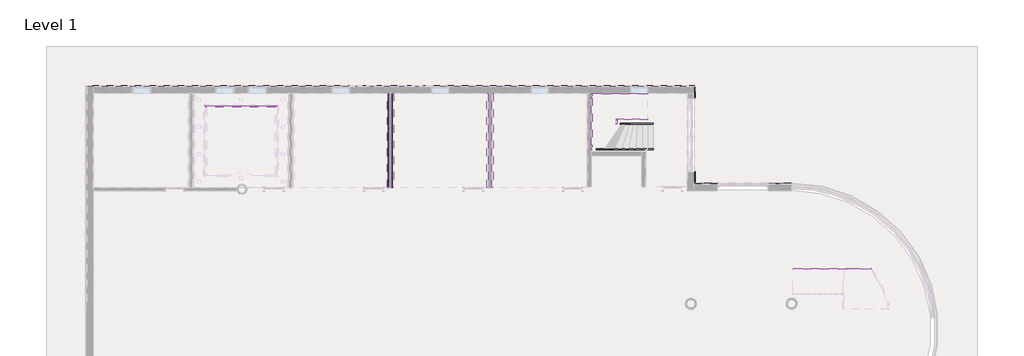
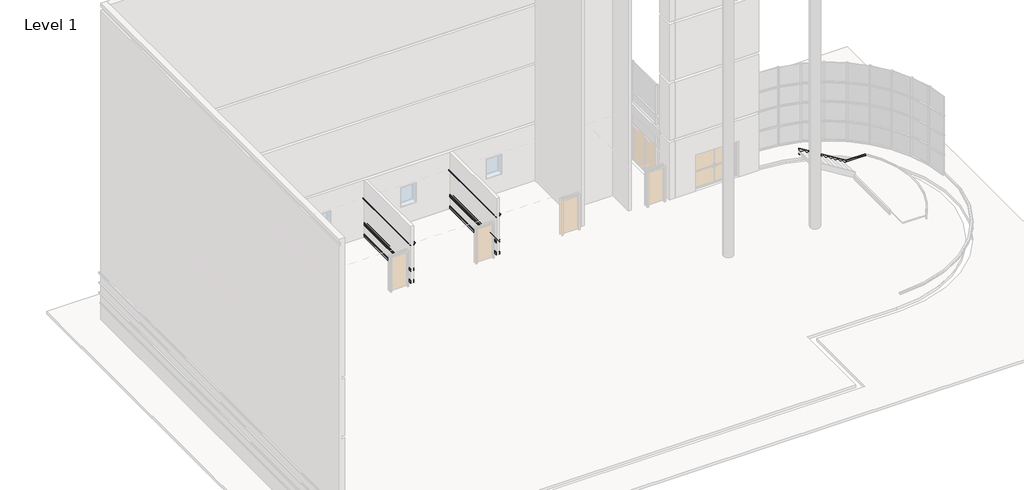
# One storey, part 20 of 20: 17 proxies, 10 members.
"""IFC4 building model written with IfcOpenShell, lengths in millimetres."""

from ifc_helpers import new_model, si_unit, point, frame, frame_2d, origin, place, context, project, spatial, polyline, circle_curve, ellipse_curve, trimmed, segment, composite_curve, outline, extrude, faceted_brep, element, save
from ifc_brep_helpers import plane_surface, cylinder_surface, revolved_surface, advanced_brep

model = new_model("IFC4")

# Units and contexts
model_context = context("Model", 3, world=origin())
ifc_project = project(units=[si_unit("LENGTHUNIT", "METRE", prefix="MILLI")], contexts=[model_context])

# Site, building, storey
site = spatial("IfcSite", under=ifc_project)
building = spatial("IfcBuilding", under=site)
storey = spatial("IfcBuildingStorey", under=building, Name="Level 1", Elevation=0.0)

# Proxies
placement = place(None, origin())
element("IfcBuildingElementProxy", 1, Name="Wall Sweeps", at=placement, inside=storey, context=model_context, shape_type="Brep", body=[
    faceted_brep([(-17326.7910279, 9594.1148319, 1085.85), (-17418.8660279, 9686.1898319, 1085.85), (-17453.7910279, 9721.1148319, 1041.4), (-17453.7910279, 9721.1148319, 1016.0), (-17326.7910279, 9594.1148319, 1016.0), (12969.0589721, 9594.1148319, 1085.85), (12969.0589721, 9594.1148319, 1016.0), (13096.0589721, 9721.1148319, 1016.0), (13096.0589721, 9721.1148319, 1041.4), (13061.1339721, 9686.1898319, 1085.85), (-17066.4410279, 9594.1148319, 1085.85), (-17066.4410279, 9594.1148319, 1016.0)], [[[0, 1, 2, 3, 4]], [[5, 6, 7, 8, 9]], [[1, 0, 10, 5, 9]], [[2, 1, 9, 8]], [[3, 2, 8, 7]], [[4, 3, 7, 6, 11]], [[0, 4, 11, 6, 5, 10]]]),
])
element("IfcBuildingElementProxy", 2, Name="Wall Sweeps", at=placement, inside=storey, context=model_context, shape_type="Brep", body=[
    faceted_brep([(12969.0589721, 5418.9898319, 1085.85), (13061.1339721, 5418.9898319, 1085.85), (13096.0589721, 5418.9898319, 1041.4), (13096.0589721, 5418.9898319, 1016.0), (13061.1339721, 5418.9898319, 1016.0), (12969.0589721, 5418.9898319, 1016.0), (12969.0589721, 4717.3148319, 1085.85), (12969.0589721, 4717.3148319, 1016.0), (13096.0589721, 4844.3148319, 1016.0), (13096.0589721, 4844.3148319, 1041.4), (13061.1339721, 4809.3898319, 1085.85)], [[[0, 1, 2, 3, 4, 5]], [[6, 7, 8, 9, 10]], [[1, 0, 6, 10]], [[2, 1, 10, 9]], [[3, 2, 9, 8]], [[5, 4, 3, 8, 7]], [[0, 5, 7, 6]]]),
    faceted_brep([(12969.0589721, 9594.1148319, 1085.85), (13061.1339721, 9686.1898319, 1085.85), (13096.0589721, 9721.1148319, 1041.4), (13096.0589721, 9721.1148319, 1016.0), (12969.0589721, 9594.1148319, 1016.0), (12969.0589721, 9076.5898319, 1085.85), (12969.0589721, 9076.5898319, 1016.0), (13061.1339721, 9076.5898319, 1016.0), (13096.0589721, 9076.5898319, 1016.0), (13096.0589721, 9076.5898319, 1041.4), (13061.1339721, 9076.5898319, 1085.85), (12969.0589721, 9333.7648319, 1085.85), (12969.0589721, 9333.7648319, 1016.0)], [[[0, 1, 2, 3, 4]], [[5, 6, 7, 8, 9, 10]], [[1, 0, 11, 5, 10]], [[2, 1, 10, 9]], [[3, 2, 9, 8]], [[4, 3, 8, 7, 6, 12]], [[0, 4, 12, 6, 5, 11]]]),
])
element("IfcBuildingElementProxy", 3, Name="Wall Sweeps", at=placement, inside=storey, context=model_context, shape_type="Brep", body=[
    faceted_brep([(16760.0089721, 4717.3148319, 1085.85), (16760.0089721, 4809.3898319, 1085.85), (16760.0089721, 4844.3148319, 1041.4), (16760.0089721, 4844.3148319, 1016.0), (16760.0089721, 4809.3898319, 1016.0), (16760.0089721, 4717.3148319, 1016.0), (17937.9339721, 4717.3148319, 1085.85), (17937.9339721, 4717.3148319, 1016.0), (17937.9339721, 4809.3898319, 1016.0), (17937.9339721, 4844.3148319, 1016.0), (17937.9339721, 4844.3148319, 1041.4), (17937.9339721, 4809.3898319, 1085.85)], [[[0, 1, 2, 3, 4, 5]], [[6, 7, 8, 9, 10, 11]], [[1, 0, 6, 11]], [[2, 1, 11, 10]], [[3, 2, 10, 9]], [[5, 4, 3, 9, 8, 7]], [[0, 5, 7, 6]]]),
    faceted_brep([(12969.0589721, 4717.3148319, 1085.85), (13061.1339721, 4809.3898319, 1085.85), (13096.0589721, 4844.3148319, 1041.4), (13096.0589721, 4844.3148319, 1016.0), (12969.0589721, 4717.3148319, 1016.0), (14220.0089721, 4717.3148319, 1085.85), (14220.0089721, 4717.3148319, 1016.0), (14220.0089721, 4809.3898319, 1016.0), (14220.0089721, 4844.3148319, 1016.0), (14220.0089721, 4844.3148319, 1041.4), (14220.0089721, 4809.3898319, 1085.85), (13061.1339721, 4717.3148319, 1085.85), (13061.1339721, 4717.3148319, 1016.0)], [[[0, 1, 2, 3, 4]], [[5, 6, 7, 8, 9, 10]], [[1, 0, 11, 5, 10]], [[2, 1, 10, 9]], [[3, 2, 9, 8]], [[4, 3, 8, 7, 6, 12]], [[0, 4, 12, 6, 5, 11]]]),
])
element("IfcBuildingElementProxy", 4, Name="Wall Sweeps", at=placement, inside=storey, context=model_context, shape_type="AdvancedBrep", body=[
    advanced_brep(
    [(-11474.2076946, 8722.5773319, 2457.45), (-11475.7951946, 8724.1648319, 2455.8625), (-11475.7951946, 8724.1648319, 2438.4), (-11455.1576946, 8703.5273319, 2438.4), (-11455.1576946, 8703.5273319, 2457.45), (-11457.5389446, 8705.9085819, 2457.45), (-11458.6301983, 8706.9998357, 2463.7601121), (-11462.5590603, 8710.9286977, 2472.53125), (-11464.6826946, 8713.0523319, 2472.53125), (-11464.6826946, 8713.0523319, 2543.96875), (-11462.5590603, 8710.9286977, 2543.96875), (-11458.6301983, 8706.9998357, 2552.7398879), (-11457.5389446, 8705.9085819, 2559.05), (-11455.1576946, 8703.5273319, 2559.05), (-11455.1576946, 8703.5273319, 2578.1), (-11475.7951946, 8724.1648319, 2578.1), (-11475.7951946, 8724.1648319, 2560.6375), (-11474.2076946, 8722.5773319, 2559.05), (-7858.4118612, 8724.1648319, 2455.8625), (-7859.9993612, 8722.5773319, 2457.45), (-7859.9993612, 8722.5773319, 2559.05), (-7858.4118612, 8724.1648319, 2560.6375), (-7858.4118612, 8724.1648319, 2578.1), (-7879.0493612, 8703.5273319, 2578.1), (-7879.0493612, 8703.5273319, 2559.05), (-7876.6681112, 8705.9085819, 2559.05), (-7875.5768575, 8706.9998357, 2552.7398879), (-7871.6479954, 8710.9286977, 2543.96875), (-7869.5243612, 8713.0523319, 2543.96875), (-7869.5243612, 8713.0523319, 2472.53125), (-7871.6479954, 8710.9286977, 2472.53125), (-7875.5768575, 8706.9998357, 2463.7601121), (-7876.6681112, 8705.9085819, 2457.45), (-7879.0493612, 8703.5273319, 2457.45), (-7879.0493612, 8703.5273319, 2438.4), (-7858.4118612, 8724.1648319, 2438.4)],
    [
        (0, 1),
        (1, 2),
        (2, 3),
        (3, 4),
        (4, 5),
        (5, 6, ellipse_curve(frame((-11462.5590603, 8710.9286977, 2459.83125), z_axis=(-0.7071067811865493, -0.7071067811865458, 0.0), x_axis=(-0.7071067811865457, 0.7071067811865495, 0.0)), 7.8577241, 5.55625)),
        (6, 7, ellipse_curve(frame((-11450.8433753, 8699.2130126, 2472.5135672), z_axis=(0.7071067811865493, 0.7071067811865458, 0.0), x_axis=(0.7071067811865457, -0.7071067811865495, 0.0)), 16.5684996, 11.7156984)),
        (7, 8),
        (8, 9),
        (9, 10),
        (10, 11, ellipse_curve(frame((-11450.8433753, 8699.2130126, 2543.9864328), z_axis=(0.7071067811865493, 0.7071067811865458, 0.0), x_axis=(0.7071067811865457, -0.7071067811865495, 0.0)), 16.5684996, 11.7156984)),
        (11, 12, ellipse_curve(frame((-11462.5590603, 8710.9286977, 2556.66875), z_axis=(-0.7071067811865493, -0.7071067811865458, 0.0), x_axis=(-0.7071067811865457, 0.7071067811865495, 0.0)), 7.8577241, 5.55625)),
        (12, 13),
        (13, 14),
        (14, 15),
        (15, 16),
        (16, 17),
        (17, 0),
        (18, 19),
        (19, 20),
        (20, 21),
        (21, 22),
        (22, 23),
        (23, 24),
        (24, 25),
        (25, 26, ellipse_curve(frame((-7871.6479954, 8710.9286977, 2556.66875), z_axis=(0.7071067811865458, -0.7071067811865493, 0.0), x_axis=(-0.7071067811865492, -0.7071067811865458, 0.0)), 7.8577241, 5.55625)),
        (26, 27, ellipse_curve(frame((-7883.3636805, 8699.2130126, 2543.9864328), z_axis=(-0.7071067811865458, 0.7071067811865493, 0.0), x_axis=(0.7071067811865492, 0.7071067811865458, 0.0)), 16.5684996, 11.7156984)),
        (27, 28),
        (28, 29),
        (29, 30),
        (30, 31, ellipse_curve(frame((-7883.3636805, 8699.2130126, 2472.5135672), z_axis=(-0.7071067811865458, 0.7071067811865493, 0.0), x_axis=(0.7071067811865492, 0.7071067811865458, 0.0)), 16.5684996, 11.7156984)),
        (31, 32, ellipse_curve(frame((-7871.6479954, 8710.9286977, 2459.83125), z_axis=(0.7071067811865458, -0.7071067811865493, 0.0), x_axis=(-0.7071067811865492, -0.7071067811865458, 0.0)), 7.8577241, 5.55625)),
        (32, 33),
        (33, 34),
        (34, 35),
        (35, 18),
        (0, 19),
        (18, 1),
        (35, 2),
        (34, 3),
        (33, 4),
        (32, 5),
        (31, 6),
        (30, 7),
        (29, 8),
        (28, 9),
        (27, 10),
        (26, 11),
        (25, 12),
        (24, 13),
        (23, 14),
        (22, 15),
        (21, 16),
        (20, 17),
    ],
    [
        plane_surface(frame((-11475.7951946, 8724.1648319, 2743.2), z_axis=(-0.7071067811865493, -0.7071067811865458, 0.0), x_axis=(0.7071067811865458, -0.7071067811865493, 0.0))),
        plane_surface(frame((-7858.4118612, 8724.1648319, 2743.2), z_axis=(0.7071067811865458, -0.7071067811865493, 0.0), x_axis=(-0.7071067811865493, -0.7071067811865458, 0.0))),
        plane_surface(frame((-11474.2076946, 8722.5773319, 2457.45), z_axis=(0.0, 0.7071067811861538, 0.7071067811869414), x_axis=(1.0, 0.0, 0.0))),
        plane_surface(frame((-11475.7951946, 8724.1648319, 2455.8625), z_axis=(0.0, 1.0, 0.0), x_axis=(1.0, 0.0, 0.0))),
        plane_surface(frame((-11475.7951946, 8724.1648319, 2438.4), z_axis=(0.0, 0.0, -1.0), x_axis=(1.0, 0.0, 0.0))),
        plane_surface(frame((-11455.1576946, 8703.5273319, 2438.4), z_axis=(0.0, -1.0, 0.0), x_axis=(1.0, 0.0, 0.0))),
        plane_surface(frame((-11455.1576946, 8703.5273319, 2457.45), z_axis=(0.0, 0.0, 1.0), x_axis=(1.0, 0.0, 0.0))),
        cylinder_surface(frame((-11475.7951946, 8710.9286977, 2459.83125), z_axis=(-1.0, 0.0, 0.0), x_axis=(0.0, -1.0, 0.0)), 5.55625),
        revolved_surface(polyline([(-7871.647982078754, 8687.4973142, 2472.5135672), (-11462.559073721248, 8687.4973142, 2472.5135672)]), (-11475.7951946, 8699.2130126, 2472.5135672), (1.0, 0.0, 0.0)),
        plane_surface(frame((-11462.5590603, 8710.9286977, 2472.53125), z_axis=(0.0, 0.0, 1.0), x_axis=(1.0, 0.0, 0.0))),
        plane_surface(frame((-11464.6826946, 8713.0523319, 2472.53125), z_axis=(0.0, -1.0, 0.0), x_axis=(1.0, 0.0, 0.0))),
        plane_surface(frame((-11464.6826946, 8713.0523319, 2543.96875), z_axis=(0.0, 0.0, -1.0), x_axis=(1.0, 0.0, 0.0))),
        revolved_surface(polyline([(-7871.647982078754, 8687.4973142, 2543.9864328), (-11462.559073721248, 8687.4973142, 2543.9864328)]), (-11475.7951946, 8699.2130126, 2543.9864328), (1.0, 0.0, 0.0)),
        cylinder_surface(frame((-11475.7951946, 8710.9286977, 2556.66875), z_axis=(-1.0, 0.0, 0.0), x_axis=(0.0, -1.0, 0.0)), 5.55625),
        plane_surface(frame((-11457.5389446, 8705.9085819, 2559.05), z_axis=(0.0, 0.0, -1.0), x_axis=(1.0, 0.0, 0.0))),
        plane_surface(frame((-11455.1576946, 8703.5273319, 2559.05), z_axis=(0.0, -1.0, 0.0), x_axis=(1.0, 0.0, 0.0))),
        plane_surface(frame((-11455.1576946, 8703.5273319, 2578.1), z_axis=(0.0, 0.0, 1.0), x_axis=(1.0, 0.0, 0.0))),
        plane_surface(frame((-11475.7951946, 8724.1648319, 2578.1), z_axis=(0.0, 1.0, 0.0), x_axis=(1.0, 0.0, 0.0))),
        plane_surface(frame((-11475.7951946, 8724.1648319, 2560.6375), z_axis=(0.0, 0.7071067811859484, -0.7071067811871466), x_axis=(1.0, 0.0, 0.0))),
        plane_surface(frame((-11474.2076946, 8722.5773319, 2559.05), z_axis=(0.0, 1.0, 0.0), x_axis=(1.0, 0.0, 0.0))),
    ],
    [
        (0, [[1, 2, 3, 4, 5, 6, 7, 8, 9, 10, 11, 12, 13, 14, 15, 16, 17, 18]]),
        (1, [[19, 20, 21, 22, 23, 24, 25, 26, 27, 28, 29, 30, 31, 32, 33, 34, 35, 36]]),
        (2, [[-1, 37, -19, 38]]),
        (3, [[-2, -38, -36, 39]]),
        (4, [[-3, -39, -35, 40]]),
        (5, [[-4, -40, -34, 41]]),
        (6, [[-5, -41, -33, 42]]),
        (7, [[-6, -42, -32, 43]]),
        (8, [[-7, -43, -31, 44]]),
        (9, [[-8, -44, -30, 45]]),
        (10, [[-9, -45, -29, 46]]),
        (11, [[-10, -46, -28, 47]]),
        (12, [[-11, -47, -27, 48]]),
        (13, [[-12, -48, -26, 49]]),
        (14, [[-13, -49, -25, 50]]),
        (15, [[-14, -50, -24, 51]]),
        (16, [[-15, -51, -23, 52]]),
        (17, [[-16, -52, -22, 53]]),
        (18, [[-17, -53, -21, 54]]),
        (19, [[-18, -54, -20, -37]]),
    ],
),
])
element("IfcBuildingElementProxy", 5, Name="Wall Sweeps", at=placement, inside=storey, context=model_context, shape_type="AdvancedBrep", body=[
    advanced_brep(
    [(-11407.602032, 8655.9716694, 2895.599973), (-11475.7951946, 8724.1648319, 2809.0919306), (-11475.7951946, 8724.1648319, 2784.475), (-11468.6123274, 8716.9819647, 2784.475), (-11464.6362015, 8713.0058388, 2790.9297498), (-11464.6362015, 8713.0058388, 2795.2157037), (-11457.5101577, 8705.879795, 2805.6207604), (-11453.9213168, 8702.2909541, 2805.6207604), (-11453.9213168, 8702.2909541, 2810.6554653), (-11450.6939418, 8699.0635792, 2810.6554653), (-11425.19768, 8673.5673174, 2849.3194168), (-11417.9554507, 8666.3250881, 2854.0442936), (-11404.4262951, 8652.7959325, 2873.3698146), (-11404.4262951, 8652.7959325, 2878.8202934), (-11401.6577313, 8650.0273687, 2878.8202934), (-11392.8600384, 8641.2296758, 2884.9986257), (-11389.410554, 8637.7801913, 2888.4481102), (-11386.8951946, 8635.2648319, 2888.4481102), (-11386.8951946, 8635.2648319, 2895.599973), (-7926.6050238, 8655.9716694, 2895.599973), (-7947.3118612, 8635.2648319, 2895.599973), (-7947.3118612, 8635.2648319, 2888.4481102), (-7944.7965018, 8637.7801913, 2888.4481102), (-7941.3470174, 8641.2296758, 2884.9986257), (-7932.5493245, 8650.0273687, 2878.8202934), (-7929.7807607, 8652.7959325, 2878.8202934), (-7929.7807607, 8652.7959325, 2873.3698146), (-7916.2516051, 8666.3250881, 2854.0442936), (-7909.0093758, 8673.5673174, 2849.3194168), (-7883.5131139, 8699.0635792, 2810.6554653), (-7880.285739, 8702.2909541, 2810.6554653), (-7880.285739, 8702.2909541, 2805.6207604), (-7876.6968981, 8705.879795, 2805.6207604), (-7869.5708543, 8713.0058388, 2795.2157037), (-7869.5708543, 8713.0058388, 2790.9297498), (-7865.5947284, 8716.9819647, 2784.475), (-7858.4118612, 8724.1648319, 2784.475), (-7858.4118612, 8724.1648319, 2809.0919306)],
    [
        (0, 1),
        (1, 2),
        (2, 3),
        (3, 4, ellipse_curve(frame((-11461.358908, 8709.7285454, 2784.4589154), z_axis=(0.7071067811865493, 0.7071067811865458, 0.0), x_axis=(0.7071067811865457, -0.7071067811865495, 0.0)), 10.2579093, 7.2534372)),
        (4, 5),
        (5, 6, ellipse_curve(frame((-11467.9977241, 8716.3673615, 2805.1606001), z_axis=(-0.7071067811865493, -0.7071067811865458, 0.0), x_axis=(-0.7071067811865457, 0.7071067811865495, 0.0)), 14.8459286, 10.4976568)),
        (6, 7),
        (7, 8),
        (8, 9),
        (9, 10, ellipse_curve(frame((-11403.7455399, 8652.1151772, 2807.4346746), z_axis=(0.7071067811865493, 0.7071067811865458, 0.0), x_axis=(0.7071067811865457, -0.7071067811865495, 0.0)), 66.5511223, 47.0587499)),
        (10, 11),
        (11, 12, ellipse_curve(frame((-11426.263642, 8674.6332794, 2874.2589994), z_axis=(-0.7071067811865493, -0.7071067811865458, 0.0), x_axis=(-0.7071067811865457, 0.7071067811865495, 0.0)), 30.9082633, 21.8554426)),
        (12, 13),
        (13, 14),
        (14, 15, ellipse_curve(frame((-11400.7154046, 8649.085042, 2886.8314026), z_axis=(-0.7071067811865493, -0.7071067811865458, 0.0), x_axis=(-0.7071067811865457, 0.7071067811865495, 0.0)), 11.4075282, 8.0663405)),
        (15, 16, ellipse_curve(frame((-11385.5760535, 8633.9456909, 2881.1641253), z_axis=(0.7071067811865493, 0.7071067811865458, 0.0), x_axis=(0.7071067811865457, -0.7071067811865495, 0.0)), 11.6412911, 8.2316359)),
        (16, 17),
        (17, 18),
        (18, 0),
        (19, 20),
        (20, 21),
        (21, 22),
        (22, 23, ellipse_curve(frame((-7948.6310023, 8633.9456909, 2881.1641253), z_axis=(-0.7071067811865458, 0.7071067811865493, 0.0), x_axis=(0.7071067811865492, 0.7071067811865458, 0.0)), 11.6412911, 8.2316359)),
        (23, 24, ellipse_curve(frame((-7933.4916512, 8649.085042, 2886.8314026), z_axis=(0.7071067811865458, -0.7071067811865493, 0.0), x_axis=(-0.7071067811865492, -0.7071067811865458, 0.0)), 11.4075282, 8.0663405)),
        (24, 25),
        (25, 26),
        (26, 27, ellipse_curve(frame((-7907.9434138, 8674.6332794, 2874.2589994), z_axis=(0.7071067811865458, -0.7071067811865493, 0.0), x_axis=(-0.7071067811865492, -0.7071067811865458, 0.0)), 30.9082633, 21.8554426)),
        (27, 28),
        (28, 29, ellipse_curve(frame((-7930.4615159, 8652.1151772, 2807.4346746), z_axis=(-0.7071067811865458, 0.7071067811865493, 0.0), x_axis=(0.7071067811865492, 0.7071067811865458, 0.0)), 66.5511223, 47.0587499)),
        (29, 30),
        (30, 31),
        (31, 32),
        (32, 33, ellipse_curve(frame((-7866.2093317, 8716.3673615, 2805.1606001), z_axis=(0.7071067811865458, -0.7071067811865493, 0.0), x_axis=(-0.7071067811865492, -0.7071067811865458, 0.0)), 14.8459286, 10.4976568)),
        (33, 34),
        (34, 35, ellipse_curve(frame((-7872.8481478, 8709.7285454, 2784.4589154), z_axis=(-0.7071067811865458, 0.7071067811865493, 0.0), x_axis=(0.7071067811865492, 0.7071067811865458, 0.0)), 10.2579093, 7.2534372)),
        (35, 36),
        (36, 37),
        (37, 19),
        (0, 19),
        (37, 1),
        (36, 2),
        (35, 3),
        (34, 4),
        (33, 5),
        (32, 6),
        (31, 7),
        (30, 8),
        (29, 9),
        (28, 10),
        (27, 11),
        (26, 12),
        (25, 13),
        (24, 14),
        (23, 15),
        (22, 16),
        (21, 17),
        (20, 18),
    ],
    [
        plane_surface(frame((-11475.7951946, 8724.1648319, 3089.275), z_axis=(-0.7071067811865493, -0.7071067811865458, 0.0), x_axis=(0.7071067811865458, -0.7071067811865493, 0.0))),
        plane_surface(frame((-7858.4118612, 8724.1648319, 3089.275), z_axis=(0.7071067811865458, -0.7071067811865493, 0.0), x_axis=(-0.7071067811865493, -0.7071067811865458, 0.0))),
        plane_surface(frame((-11407.602032, 8655.9716694, 2895.599973), z_axis=(0.0, 0.7853358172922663, 0.6190699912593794), x_axis=(1.0, 0.0, 0.0))),
        plane_surface(frame((-11475.7951946, 8724.1648319, 2809.0919306), z_axis=(0.0, 1.0, 0.0), x_axis=(1.0, 0.0, 0.0))),
        plane_surface(frame((-11475.7951946, 8724.1648319, 2784.475), z_axis=(0.0, 0.0, -1.0), x_axis=(1.0, 0.0, 0.0))),
        revolved_surface(polyline([(-7865.594710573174, 8702.4751082, 2784.4589154), (-11468.612345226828, 8702.4751082, 2784.4589154)]), (-11475.7951946, 8709.7285454, 2784.4589154), (1.0, 0.0, 0.0)),
        plane_surface(frame((-11464.6362015, 8713.0058388, 2790.9297498), z_axis=(0.0, -1.0, 0.0), x_axis=(1.0, 0.0, 0.0))),
        cylinder_surface(frame((-11475.7951946, 8716.3673615, 2805.1606001), z_axis=(-1.0, 0.0, 0.0), x_axis=(0.0, -1.0, 0.0)), 10.4976568),
        plane_surface(frame((-11457.5101577, 8705.879795, 2805.6207604), z_axis=(0.0, 0.0, -1.0), x_axis=(1.0, 0.0, 0.0))),
        plane_surface(frame((-11453.9213168, 8702.2909541, 2805.6207604), z_axis=(0.0, -1.0, 0.0), x_axis=(1.0, 0.0, 0.0))),
        plane_surface(frame((-11453.9213168, 8702.2909541, 2810.6554653), z_axis=(0.0, 0.0, -1.0), x_axis=(1.0, 0.0, 0.0))),
        revolved_surface(polyline([(-7883.4027660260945, 8605.0564273, 2807.4346746), (-11450.804289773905, 8605.0564273, 2807.4346746)]), (-11475.7951946, 8652.1151772, 2807.4346746), (1.0, 0.0, 0.0)),
        plane_surface(frame((-11425.19768, 8673.5673174, 2849.3194168), z_axis=(0.0, -0.5464043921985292, -0.8375214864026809), x_axis=(1.0, 0.0, 0.0))),
        cylinder_surface(frame((-11475.7951946, 8674.6332794, 2874.2589994), z_axis=(-1.0, 0.0, 0.0), x_axis=(0.0, -1.0, 0.0)), 21.8554426),
        plane_surface(frame((-11404.4262951, 8652.7959325, 2873.3698146), z_axis=(0.0, -1.0, 0.0), x_axis=(1.0, 0.0, 0.0))),
        plane_surface(frame((-11404.4262951, 8652.7959325, 2878.8202934), z_axis=(0.0, 0.0, -1.0), x_axis=(1.0, 0.0, 0.0))),
        cylinder_surface(frame((-11475.7951946, 8649.085042, 2886.8314026), z_axis=(-1.0, 0.0, 0.0), x_axis=(0.0, -1.0, 0.0)), 8.0663405),
        revolved_surface(polyline([(-7940.399366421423, 8625.714055, 2881.1641253), (-11393.807689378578, 8625.714055, 2881.1641253)]), (-11475.7951946, 8633.9456909, 2881.1641253), (1.0, 0.0, 0.0)),
        plane_surface(frame((-11389.410554, 8637.7801913, 2888.4481102), z_axis=(0.0, 0.0, -1.0), x_axis=(1.0, 0.0, 0.0))),
        plane_surface(frame((-11386.8951946, 8635.2648319, 2888.4481102), z_axis=(0.0, -1.0, 0.0), x_axis=(1.0, 0.0, 0.0))),
        plane_surface(frame((-11386.8951946, 8635.2648319, 2895.599973), z_axis=(0.0, 0.0, 1.0), x_axis=(1.0, 0.0, 0.0))),
    ],
    [
        (0, [[1, 2, 3, 4, 5, 6, 7, 8, 9, 10, 11, 12, 13, 14, 15, 16, 17, 18, 19]]),
        (1, [[20, 21, 22, 23, 24, 25, 26, 27, 28, 29, 30, 31, 32, 33, 34, 35, 36, 37, 38]]),
        (2, [[-1, 39, -38, 40]]),
        (3, [[-2, -40, -37, 41]]),
        (4, [[-3, -41, -36, 42]]),
        (5, [[-4, -42, -35, 43]]),
        (6, [[-5, -43, -34, 44]]),
        (7, [[-6, -44, -33, 45]]),
        (8, [[-7, -45, -32, 46]]),
        (9, [[-8, -46, -31, 47]]),
        (10, [[-9, -47, -30, 48]]),
        (11, [[-10, -48, -29, 49]]),
        (12, [[-11, -49, -28, 50]]),
        (13, [[-12, -50, -27, 51]]),
        (14, [[-13, -51, -26, 52]]),
        (15, [[-14, -52, -25, 53]]),
        (16, [[-15, -53, -24, 54]]),
        (17, [[-16, -54, -23, 55]]),
        (18, [[-17, -55, -22, 56]]),
        (19, [[-18, -56, -21, 57]]),
        (20, [[-19, -57, -20, -39]]),
    ],
),
])
element("IfcBuildingElementProxy", 6, Name="Wall Sweeps", at=placement, inside=storey, context=model_context, shape_type="SweptSolid", body=[
    extrude(outline(composite_curve([segment(polyline([(146.05, -2272.528528), (0.0, -2272.528528), (0.0, -2256.6535279), (25.4, -2256.6535279), (26.9875, -2258.2410279), (138.1125, -2258.2410279), (139.7, -2256.6535279), (184.15, -2256.6535279), (184.15, -2263.0035279), (178.4425393, -2265.4495825)]), True, "CONTINUOUS"), segment(trimmed(circle_curve(frame_2d((173.434375, -2269.3535279)), 6.35), [point((178.4425393, -2265.4495825))], [point((169.9015472, -2264.0770113))], True, "CARTESIAN"), True, "CONTINUOUS"), segment(polyline([(169.9015472, -2264.0770113), (159.8244174, -2270.9183041)]), True, "CONTINUOUS"), segment(trimmed(circle_curve(frame_2d((154.447453, -2263.0035279)), 9.5684601), [point((159.8244174, -2270.9183041))], [point((147.838329, -2269.9226975))], False, "CARTESIAN"), True, "CONTINUOUS"), segment(trimmed(circle_curve(frame_2d((147.2928122, -2270.4992828)), 0.79375), [point((147.838329, -2269.9226975))], [point((146.5164076, -2270.3342529))], True, "CARTESIAN"), True, "CONTINUOUS"), segment(polyline([(146.5164076, -2270.3342529), (146.05, -2272.528528)]), True, "CONTINUOUS")], self_intersect=False)), frame((0.0, 4612.5398319, 0.0), z_axis=(0.0, 1.0, 0.0), x_axis=(0.0, 0.0, 1.0)), (0.0, 0.0, 1.0), 4721.225),
])
element("IfcBuildingElementProxy", 7, Name="Wall Sweeps", at=placement, inside=storey, context=model_context, shape_type="SweptSolid", body=[
    extrude(outline(composite_curve([segment(polyline([(146.05, -2085.2035278), (146.5164076, -2087.3978029)]), True, "CONTINUOUS"), segment(trimmed(circle_curve(frame_2d((147.2928122, -2087.232773)), 0.79375), [point((146.5164076, -2087.3978029))], [point((147.838329, -2087.8093583))], True, "CARTESIAN"), True, "CONTINUOUS"), segment(trimmed(circle_curve(frame_2d((154.447453, -2094.7285279)), 9.5684601), [point((147.838329, -2087.8093583))], [point((159.8244174, -2086.8137517))], False, "CARTESIAN"), True, "CONTINUOUS"), segment(polyline([(159.8244174, -2086.8137517), (169.9015472, -2093.6550445)]), True, "CONTINUOUS"), segment(trimmed(circle_curve(frame_2d((173.434375, -2088.3785279)), 6.35), [point((169.9015472, -2093.6550445))], [point((178.4425393, -2092.2824733))], True, "CARTESIAN"), True, "CONTINUOUS"), segment(polyline([(178.4425393, -2092.2824733), (184.15, -2094.7285279), (184.15, -2101.0785279), (139.7, -2101.0785279), (138.1125, -2099.4910279), (26.9875, -2099.4910279), (25.4, -2101.0785279), (0.0, -2101.0785279), (0.0, -2085.2035278), (146.05, -2085.2035278)]), True, "CONTINUOUS")], self_intersect=False)), frame((0.0, 4612.5398319, 0.0), z_axis=(0.0, 1.0, 0.0), x_axis=(0.0, 0.0, 1.0)), (0.0, 0.0, 1.0), 4721.225),
])
element("IfcBuildingElementProxy", 8, Name="Wall Sweeps", at=placement, inside=storey, context=model_context, shape_type="SweptSolid", body=[
    extrude(outline(composite_curve([segment(polyline([(781.05, -2258.2410279), (882.65, -2258.2410279), (884.2375, -2256.6535279), (901.7, -2256.6535279), (901.7, -2277.2910279), (882.65, -2277.2910279), (882.65, -2274.9097779)]), True, "CONTINUOUS"), segment(trimmed(circle_curve(frame_2d((880.26875, -2269.8896621)), 5.55625), [point((882.65, -2274.9097779))], [point((876.3398879, -2273.8185242))], False, "CARTESIAN"), True, "CONTINUOUS"), segment(trimmed(circle_curve(frame_2d((867.5864328, -2281.6053472)), 11.7156984), [point((876.3398879, -2273.8185242))], [point((867.56875, -2269.8896621))], True, "CARTESIAN"), True, "CONTINUOUS"), segment(polyline([(867.56875, -2269.8896621), (867.56875, -2267.7660279), (796.13125, -2267.7660279), (796.13125, -2269.8896621)]), True, "CONTINUOUS"), segment(trimmed(circle_curve(frame_2d((796.1135672, -2281.6053472)), 11.7156984), [point((796.13125, -2269.8896621))], [point((787.3601121, -2273.8185242))], True, "CARTESIAN"), True, "CONTINUOUS"), segment(trimmed(circle_curve(frame_2d((783.43125, -2269.8896621)), 5.55625), [point((787.3601121, -2273.8185242))], [point((781.05, -2274.9097779))], False, "CARTESIAN"), True, "CONTINUOUS"), segment(polyline([(781.05, -2274.9097779), (781.05, -2277.2910279), (762.0, -2277.2910279), (762.0, -2256.6535279), (779.4625, -2256.6535279), (781.05, -2258.2410279)]), True, "CONTINUOUS")], self_intersect=False)), frame((0.0, 4612.5398319, 0.0), z_axis=(0.0, 1.0, 0.0), x_axis=(0.0, 0.0, 1.0)), (0.0, 0.0, 1.0), 4721.225),
])
element("IfcBuildingElementProxy", 9, Name="Wall Sweeps", at=placement, inside=storey, context=model_context, shape_type="SweptSolid", body=[
    extrude(outline(composite_curve([segment(polyline([(781.05, -2099.4910279), (779.4625, -2101.0785279), (762.0, -2101.0785279), (762.0, -2080.4410279), (781.05, -2080.4410279), (781.05, -2082.8222779)]), True, "CONTINUOUS"), segment(trimmed(circle_curve(frame_2d((783.43125, -2087.8423937)), 5.55625), [point((781.05, -2082.8222779))], [point((787.3601121, -2083.9135316))], False, "CARTESIAN"), True, "CONTINUOUS"), segment(trimmed(circle_curve(frame_2d((796.1135672, -2076.1267086)), 11.7156984), [point((787.3601121, -2083.9135316))], [point((796.13125, -2087.8423937))], True, "CARTESIAN"), True, "CONTINUOUS"), segment(polyline([(796.13125, -2087.8423937), (796.13125, -2089.9660279), (867.56875, -2089.9660279), (867.56875, -2087.8423937)]), True, "CONTINUOUS"), segment(trimmed(circle_curve(frame_2d((867.5864328, -2076.1267086)), 11.7156984), [point((867.56875, -2087.8423937))], [point((876.3398879, -2083.9135316))], True, "CARTESIAN"), True, "CONTINUOUS"), segment(trimmed(circle_curve(frame_2d((880.26875, -2087.8423937)), 5.55625), [point((876.3398879, -2083.9135316))], [point((882.65, -2082.8222779))], False, "CARTESIAN"), True, "CONTINUOUS"), segment(polyline([(882.65, -2082.8222779), (882.65, -2080.4410279), (901.7, -2080.4410279), (901.7, -2101.0785279), (884.2375, -2101.0785279), (882.65, -2099.4910279), (781.05, -2099.4910279)]), True, "CONTINUOUS")], self_intersect=False)), frame((0.0, 4612.5398319, 0.0), z_axis=(0.0, 1.0, 0.0), x_axis=(0.0, 0.0, 1.0)), (0.0, 0.0, 1.0), 4721.225),
])
element("IfcBuildingElementProxy", 10, Name="Wall Sweeps", at=placement, inside=storey, context=model_context, shape_type="SweptSolid", body=[
    extrude(outline(composite_curve([segment(polyline([(2438.399973, -2324.8466905), (2438.399973, -2345.5535279), (2431.2481102, -2345.5535279), (2431.2481102, -2343.0381685)]), True, "CONTINUOUS"), segment(trimmed(circle_curve(frame_2d((2423.9641253, -2346.8726689)), 8.2316359), [point((2431.2481102, -2343.0381685))], [point((2427.7986257, -2339.588684))], True, "CARTESIAN"), True, "CONTINUOUS"), segment(trimmed(circle_curve(frame_2d((2429.6314026, -2331.7333178)), 8.0663405), [point((2427.7986257, -2339.588684))], [point((2421.6202934, -2330.7909911))], False, "CARTESIAN"), True, "CONTINUOUS"), segment(polyline([(2421.6202934, -2330.7909911), (2421.6202934, -2328.0224274), (2416.1698146, -2328.0224274)]), True, "CONTINUOUS"), segment(trimmed(circle_curve(frame_2d((2417.0589994, -2306.1850804)), 21.8554426), [point((2416.1698146, -2328.0224274))], [point((2396.8442936, -2314.4932717))], False, "CARTESIAN"), True, "CONTINUOUS"), segment(polyline([(2396.8442936, -2314.4932717), (2392.1194168, -2307.2510424)]), True, "CONTINUOUS"), segment(trimmed(circle_curve(frame_2d((2350.2346746, -2328.7031826)), 47.0587499), [point((2392.1194168, -2307.2510424))], [point((2353.4554653, -2281.7547806))], True, "CARTESIAN"), True, "CONTINUOUS"), segment(polyline([(2353.4554653, -2281.7547806), (2353.4554653, -2278.5274057), (2348.4207604, -2278.5274057), (2348.4207604, -2274.9385648)]), True, "CONTINUOUS"), segment(trimmed(circle_curve(frame_2d((2347.9606001, -2264.4509983)), 10.4976568), [point((2348.4207604, -2274.9385648))], [point((2338.0157037, -2267.812521))], False, "CARTESIAN"), True, "CONTINUOUS"), segment(polyline([(2338.0157037, -2267.812521), (2333.7297498, -2267.812521)]), True, "CONTINUOUS"), segment(trimmed(circle_curve(frame_2d((2327.2589154, -2271.0898145)), 7.2534372), [point((2333.7297498, -2267.812521))], [point((2327.275, -2263.8363951))], True, "CARTESIAN"), True, "CONTINUOUS"), segment(polyline([(2327.275, -2263.8363951), (2327.275, -2256.6535279), (2351.8919306, -2256.6535279), (2438.399973, -2324.8466905)]), True, "CONTINUOUS")], self_intersect=False)), frame((0.0, 4612.5398319, 0.0), z_axis=(0.0, 1.0, 0.0), x_axis=(0.0, 0.0, 1.0)), (0.0, 0.0, 1.0), 4721.225),
])
element("IfcBuildingElementProxy", 11, Name="Wall Sweeps", at=placement, inside=storey, context=model_context, shape_type="SweptSolid", body=[
    extrude(outline(composite_curve([segment(polyline([(2438.399973, -2032.8853653), (2351.8919306, -2101.0785279), (2327.275, -2101.0785279), (2327.275, -2093.8956607)]), True, "CONTINUOUS"), segment(trimmed(circle_curve(frame_2d((2327.2589154, -2086.6422413)), 7.2534372), [point((2327.275, -2093.8956607))], [point((2333.7297498, -2089.9195348))], True, "CARTESIAN"), True, "CONTINUOUS"), segment(polyline([(2333.7297498, -2089.9195348), (2338.0157037, -2089.9195348)]), True, "CONTINUOUS"), segment(trimmed(circle_curve(frame_2d((2347.9606001, -2093.2810575)), 10.4976568), [point((2338.0157037, -2089.9195348))], [point((2348.4207604, -2082.793491))], False, "CARTESIAN"), True, "CONTINUOUS"), segment(polyline([(2348.4207604, -2082.793491), (2348.4207604, -2079.2046501), (2353.4554653, -2079.2046501), (2353.4554653, -2075.9772752)]), True, "CONTINUOUS"), segment(trimmed(circle_curve(frame_2d((2350.2346746, -2029.0288732)), 47.0587499), [point((2353.4554653, -2075.9772752))], [point((2392.1194168, -2050.4810134))], True, "CARTESIAN"), True, "CONTINUOUS"), segment(polyline([(2392.1194168, -2050.4810134), (2396.8442936, -2043.2387841)]), True, "CONTINUOUS"), segment(trimmed(circle_curve(frame_2d((2417.0589994, -2051.5469754)), 21.8554426), [point((2396.8442936, -2043.2387841))], [point((2416.1698146, -2029.7096284))], False, "CARTESIAN"), True, "CONTINUOUS"), segment(polyline([(2416.1698146, -2029.7096284), (2421.6202934, -2029.7096284), (2421.6202934, -2026.9410646)]), True, "CONTINUOUS"), segment(trimmed(circle_curve(frame_2d((2429.6314026, -2025.998738)), 8.0663405), [point((2421.6202934, -2026.9410646))], [point((2427.7986257, -2018.1433718))], False, "CARTESIAN"), True, "CONTINUOUS"), segment(trimmed(circle_curve(frame_2d((2423.9641253, -2010.8593868)), 8.2316359), [point((2427.7986257, -2018.1433718))], [point((2431.2481102, -2014.6938873))], True, "CARTESIAN"), True, "CONTINUOUS"), segment(polyline([(2431.2481102, -2014.6938873), (2431.2481102, -2012.1785279), (2438.399973, -2012.1785279), (2438.399973, -2032.8853653)]), True, "CONTINUOUS")], self_intersect=False)), frame((0.0, 4612.5398319, 0.0), z_axis=(0.0, 1.0, 0.0), x_axis=(0.0, 0.0, 1.0)), (0.0, 0.0, 1.0), 4721.225),
])
element("IfcBuildingElementProxy", 12, Name="Wall Sweeps", at=placement, inside=storey, context=model_context, shape_type="SweptSolid", body=[
    extrude(outline(composite_curve([segment(polyline([(146.05, 2719.6298053), (0.0, 2719.6298053), (0.0, 2735.5048054), (25.4, 2735.5048054), (26.9875, 2733.9173054), (138.1125, 2733.9173054), (139.7, 2735.5048054), (184.15, 2735.5048054), (184.15, 2729.1548054), (178.4425393, 2726.7087509)]), True, "CONTINUOUS"), segment(trimmed(circle_curve(frame_2d((173.434375, 2722.8048054)), 6.35), [point((178.4425393, 2726.7087509))], [point((169.9015472, 2728.0813221))], True, "CARTESIAN"), True, "CONTINUOUS"), segment(polyline([(169.9015472, 2728.0813221), (159.8244174, 2721.2400293)]), True, "CONTINUOUS"), segment(trimmed(circle_curve(frame_2d((154.447453, 2729.1548054)), 9.5684601), [point((159.8244174, 2721.2400293))], [point((147.838329, 2722.2356358))], False, "CARTESIAN"), True, "CONTINUOUS"), segment(trimmed(circle_curve(frame_2d((147.2928122, 2721.6590506)), 0.79375), [point((147.838329, 2722.2356358))], [point((146.5164076, 2721.8240805))], True, "CARTESIAN"), True, "CONTINUOUS"), segment(polyline([(146.5164076, 2721.8240805), (146.05, 2719.6298053)]), True, "CONTINUOUS")], self_intersect=False)), frame((0.0, 4612.5398319, 0.0), z_axis=(0.0, 1.0, 0.0), x_axis=(0.0, 0.0, 1.0)), (0.0, 0.0, 1.0), 4721.225),
])
element("IfcBuildingElementProxy", 13, Name="Wall Sweeps", at=placement, inside=storey, context=model_context, shape_type="SweptSolid", body=[
    extrude(outline(composite_curve([segment(polyline([(146.05, 2906.9548056), (146.5164076, 2904.7605304)]), True, "CONTINUOUS"), segment(trimmed(circle_curve(frame_2d((147.2928122, 2904.9255603)), 0.79375), [point((146.5164076, 2904.7605304))], [point((147.838329, 2904.348975))], True, "CARTESIAN"), True, "CONTINUOUS"), segment(trimmed(circle_curve(frame_2d((154.447453, 2897.4298054)), 9.5684601), [point((147.838329, 2904.348975))], [point((159.8244174, 2905.3445816))], False, "CARTESIAN"), True, "CONTINUOUS"), segment(polyline([(159.8244174, 2905.3445816), (169.9015472, 2898.5032888)]), True, "CONTINUOUS"), segment(trimmed(circle_curve(frame_2d((173.434375, 2903.7798054)), 6.35), [point((169.9015472, 2898.5032888))], [point((178.4425393, 2899.87586))], True, "CARTESIAN"), True, "CONTINUOUS"), segment(polyline([(178.4425393, 2899.87586), (184.15, 2897.4298054), (184.15, 2891.0798054), (139.7, 2891.0798054), (138.1125, 2892.6673054), (26.9875, 2892.6673054), (25.4, 2891.0798054), (0.0, 2891.0798054), (0.0, 2906.9548056), (146.05, 2906.9548056)]), True, "CONTINUOUS")], self_intersect=False)), frame((0.0, 4612.5398319, 0.0), z_axis=(0.0, 1.0, 0.0), x_axis=(0.0, 0.0, 1.0)), (0.0, 0.0, 1.0), 4721.225),
])
element("IfcBuildingElementProxy", 14, Name="Wall Sweeps", at=placement, inside=storey, context=model_context, shape_type="SweptSolid", body=[
    extrude(outline(composite_curve([segment(polyline([(781.05, 2733.9173054), (882.65, 2733.9173054), (884.2375, 2735.5048054), (901.7, 2735.5048054), (901.7, 2714.8673054), (882.65, 2714.8673054), (882.65, 2717.2485554)]), True, "CONTINUOUS"), segment(trimmed(circle_curve(frame_2d((880.26875, 2722.2686712)), 5.55625), [point((882.65, 2717.2485554))], [point((876.3398879, 2718.3398092))], False, "CARTESIAN"), True, "CONTINUOUS"), segment(trimmed(circle_curve(frame_2d((867.5864328, 2710.5529862)), 11.7156984), [point((876.3398879, 2718.3398092))], [point((867.56875, 2722.2686712))], True, "CARTESIAN"), True, "CONTINUOUS"), segment(polyline([(867.56875, 2722.2686712), (867.56875, 2724.3923054), (796.13125, 2724.3923054), (796.13125, 2722.2686712)]), True, "CONTINUOUS"), segment(trimmed(circle_curve(frame_2d((796.1135672, 2710.5529862)), 11.7156984), [point((796.13125, 2722.2686712))], [point((787.3601121, 2718.3398092))], True, "CARTESIAN"), True, "CONTINUOUS"), segment(trimmed(circle_curve(frame_2d((783.43125, 2722.2686712)), 5.55625), [point((787.3601121, 2718.3398092))], [point((781.05, 2717.2485554))], False, "CARTESIAN"), True, "CONTINUOUS"), segment(polyline([(781.05, 2717.2485554), (781.05, 2714.8673054), (762.0, 2714.8673054), (762.0, 2735.5048054), (779.4625, 2735.5048054), (781.05, 2733.9173054)]), True, "CONTINUOUS")], self_intersect=False)), frame((0.0, 4612.5398319, 0.0), z_axis=(0.0, 1.0, 0.0), x_axis=(0.0, 0.0, 1.0)), (0.0, 0.0, 1.0), 4721.225),
])
element("IfcBuildingElementProxy", 15, Name="Wall Sweeps", at=placement, inside=storey, context=model_context, shape_type="SweptSolid", body=[
    extrude(outline(composite_curve([segment(polyline([(781.05, 2892.6673054), (779.4625, 2891.0798054), (762.0, 2891.0798054), (762.0, 2911.7173054), (781.05, 2911.7173054), (781.05, 2909.3360554)]), True, "CONTINUOUS"), segment(trimmed(circle_curve(frame_2d((783.43125, 2904.3159397)), 5.55625), [point((781.05, 2909.3360554))], [point((787.3601121, 2908.2448017))], False, "CARTESIAN"), True, "CONTINUOUS"), segment(trimmed(circle_curve(frame_2d((796.1135672, 2916.0316247)), 11.7156984), [point((787.3601121, 2908.2448017))], [point((796.13125, 2904.3159397))], True, "CARTESIAN"), True, "CONTINUOUS"), segment(polyline([(796.13125, 2904.3159397), (796.13125, 2902.1923054), (867.56875, 2902.1923054), (867.56875, 2904.3159397)]), True, "CONTINUOUS"), segment(trimmed(circle_curve(frame_2d((867.5864328, 2916.0316247)), 11.7156984), [point((867.56875, 2904.3159397))], [point((876.3398879, 2908.2448017))], True, "CARTESIAN"), True, "CONTINUOUS"), segment(trimmed(circle_curve(frame_2d((880.26875, 2904.3159397)), 5.55625), [point((876.3398879, 2908.2448017))], [point((882.65, 2909.3360554))], False, "CARTESIAN"), True, "CONTINUOUS"), segment(polyline([(882.65, 2909.3360554), (882.65, 2911.7173054), (901.7, 2911.7173054), (901.7, 2891.0798054), (884.2375, 2891.0798054), (882.65, 2892.6673054), (781.05, 2892.6673054)]), True, "CONTINUOUS")], self_intersect=False)), frame((0.0, 4612.5398319, 0.0), z_axis=(0.0, 1.0, 0.0), x_axis=(0.0, 0.0, 1.0)), (0.0, 0.0, 1.0), 4721.225),
])
element("IfcBuildingElementProxy", 16, Name="Wall Sweeps", at=placement, inside=storey, context=model_context, shape_type="SweptSolid", body=[
    extrude(outline(composite_curve([segment(polyline([(2438.399973, 2667.3116429), (2438.399973, 2646.6048054), (2431.2481102, 2646.6048054), (2431.2481102, 2649.1201648)]), True, "CONTINUOUS"), segment(trimmed(circle_curve(frame_2d((2423.9641253, 2645.2856644)), 8.2316359), [point((2431.2481102, 2649.1201648))], [point((2427.7986257, 2652.5696493))], True, "CARTESIAN"), True, "CONTINUOUS"), segment(trimmed(circle_curve(frame_2d((2429.6314026, 2660.4250155)), 8.0663405), [point((2427.7986257, 2652.5696493))], [point((2421.6202934, 2661.3673422))], False, "CARTESIAN"), True, "CONTINUOUS"), segment(polyline([(2421.6202934, 2661.3673422), (2421.6202934, 2664.135906), (2416.1698146, 2664.135906)]), True, "CONTINUOUS"), segment(trimmed(circle_curve(frame_2d((2417.0589994, 2685.9732529)), 21.8554426), [point((2416.1698146, 2664.135906))], [point((2396.8442936, 2677.6650616))], False, "CARTESIAN"), True, "CONTINUOUS"), segment(polyline([(2396.8442936, 2677.6650616), (2392.1194168, 2684.9072909)]), True, "CONTINUOUS"), segment(trimmed(circle_curve(frame_2d((2350.2346746, 2663.4551507)), 47.0587499), [point((2392.1194168, 2684.9072909))], [point((2353.4554653, 2710.4035527))], True, "CARTESIAN"), True, "CONTINUOUS"), segment(polyline([(2353.4554653, 2710.4035527), (2353.4554653, 2713.6309276), (2348.4207604, 2713.6309276), (2348.4207604, 2717.2197685)]), True, "CONTINUOUS"), segment(trimmed(circle_curve(frame_2d((2347.9606001, 2727.707335)), 10.4976568), [point((2348.4207604, 2717.2197685))], [point((2338.0157037, 2724.3458123))], False, "CARTESIAN"), True, "CONTINUOUS"), segment(polyline([(2338.0157037, 2724.3458123), (2333.7297498, 2724.3458123)]), True, "CONTINUOUS"), segment(trimmed(circle_curve(frame_2d((2327.2589154, 2721.0685189)), 7.2534372), [point((2333.7297498, 2724.3458123))], [point((2327.275, 2728.3219382))], True, "CARTESIAN"), True, "CONTINUOUS"), segment(polyline([(2327.275, 2728.3219382), (2327.275, 2735.5048054), (2351.8919306, 2735.5048054), (2438.399973, 2667.3116429)]), True, "CONTINUOUS")], self_intersect=False)), frame((0.0, 4612.5398319, 0.0), z_axis=(0.0, 1.0, 0.0), x_axis=(0.0, 0.0, 1.0)), (0.0, 0.0, 1.0), 4721.225),
])
element("IfcBuildingElementProxy", 17, Name="Wall Sweeps", at=placement, inside=storey, context=model_context, shape_type="SweptSolid", body=[
    extrude(outline(composite_curve([segment(polyline([(2438.399973, 2959.272968), (2351.8919306, 2891.0798054), (2327.275, 2891.0798054), (2327.275, 2898.2626726)]), True, "CONTINUOUS"), segment(trimmed(circle_curve(frame_2d((2327.2589154, 2905.516092)), 7.2534372), [point((2327.275, 2898.2626726))], [point((2333.7297498, 2902.2387985))], True, "CARTESIAN"), True, "CONTINUOUS"), segment(polyline([(2333.7297498, 2902.2387985), (2338.0157037, 2902.2387985)]), True, "CONTINUOUS"), segment(trimmed(circle_curve(frame_2d((2347.9606001, 2898.8772759)), 10.4976568), [point((2338.0157037, 2902.2387985))], [point((2348.4207604, 2909.3648423))], False, "CARTESIAN"), True, "CONTINUOUS"), segment(polyline([(2348.4207604, 2909.3648423), (2348.4207604, 2912.9536832), (2353.4554653, 2912.9536832), (2353.4554653, 2916.1810582)]), True, "CONTINUOUS"), segment(trimmed(circle_curve(frame_2d((2350.2346746, 2963.1294601)), 47.0587499), [point((2353.4554653, 2916.1810582))], [point((2392.1194168, 2941.67732))], True, "CARTESIAN"), True, "CONTINUOUS"), segment(polyline([(2392.1194168, 2941.67732), (2396.8442936, 2948.9195493)]), True, "CONTINUOUS"), segment(trimmed(circle_curve(frame_2d((2417.0589994, 2940.611358)), 21.8554426), [point((2396.8442936, 2948.9195493))], [point((2416.1698146, 2962.4487049))], False, "CARTESIAN"), True, "CONTINUOUS"), segment(polyline([(2416.1698146, 2962.4487049), (2421.6202934, 2962.4487049), (2421.6202934, 2965.2172687)]), True, "CONTINUOUS"), segment(trimmed(circle_curve(frame_2d((2429.6314026, 2966.1595954)), 8.0663405), [point((2421.6202934, 2965.2172687))], [point((2427.7986257, 2974.0149616))], False, "CARTESIAN"), True, "CONTINUOUS"), segment(trimmed(circle_curve(frame_2d((2423.9641253, 2981.2989465)), 8.2316359), [point((2427.7986257, 2974.0149616))], [point((2431.2481102, 2977.464446))], True, "CARTESIAN"), True, "CONTINUOUS"), segment(polyline([(2431.2481102, 2977.464446), (2431.2481102, 2979.9798054), (2438.399973, 2979.9798054), (2438.399973, 2959.272968)]), True, "CONTINUOUS")], self_intersect=False)), frame((0.0, 4612.5398319, 0.0), z_axis=(0.0, 1.0, 0.0), x_axis=(0.0, 0.0, 1.0)), (0.0, 0.0, 1.0), 4721.225),
])

# Members
element("IfcMember", 18, ObjectType="Stringer - 2\" Width", at=placement, inside=storey, context=model_context, shape_type="SweptSolid", body=[
    extrude(outline(polyline([(1687.2857143, 20671.4397969), (1992.0857143, 20758.6626378), (3697.181402, 18023.4049721), (3338.008722, 18023.4049721), (1687.2857143, 20671.4397969)])), frame((0.0, 518.3773319, 0.0), z_axis=(0.0, 1.0, 0.0), x_axis=(0.0, 0.0, 1.0)), (0.0, 0.0, 1.0), 50.8),
])
element("IfcMember", 19, ObjectType="Stringer - 2\" Width", at=placement, inside=storey, context=model_context, shape_type="Brep", body=[
    faceted_brep([(21896.5169819, 518.3773319, 1992.0857143), (21921.5566971, 569.1773319, 1992.0857143), (20758.6626378, 569.1773319, 1992.0857143), (20758.6626378, 518.3773319, 1992.0857143), (21896.5169819, 518.3773319, 1687.2857143), (20671.4397969, 518.3773319, 1687.2857143), (21921.5566971, 569.1773319, 1687.2857143), (20671.4397969, 569.1773319, 1687.2857143)], [[[0, 1, 2, 3]], [[4, 0, 3, 5]], [[6, 4, 5, 7]], [[1, 6, 7, 2]], [[2, 7, 5, 3]], [[1, 0, 4, 6]]]),
])
element("IfcMember", 20, ObjectType="Stringer - 2\" Width", at=placement, inside=storey, context=model_context, shape_type="SweptSolid", body=[
    extrude(outline(polyline([(0.0, 10997.6353862), (248.2599178, 10997.6353862), (1622.5503859, 7934.0381388), (1288.4875748, 7934.0381388), (0.0, 10806.3617698), (0.0, 10997.6353862)])), frame((0.0, 6514.3648319, 0.0), z_axis=(0.0, 1.0, 0.0), x_axis=(0.0, 0.0, 1.0)), (0.0, 0.0, 1.0), 50.8),
])
element("IfcMember", 21, ObjectType="Stringer - 2\" Width", at=placement, inside=storey, context=model_context, shape_type="SweptSolid", body=[
    extrude(outline(polyline([(7934.0381388, 6514.3648319), (7883.2381388, 6514.3648319), (7883.2381388, 6736.1560131), (7934.0381388, 6736.1560131), (7934.0381388, 6514.3648319)])), frame((0.0, 0.0, 1288.4875748), z_axis=(0.0, 0.0, 1.0), x_axis=(1.0, 0.0, 0.0)), (0.0, 0.0, 1.0), 334.0628111),
])
element("IfcMember", 22, ObjectType="Stringer - 2\" Width", at=placement, inside=storey, context=model_context, shape_type="SweptSolid", body=[
    extrude(outline(polyline([(6736.1560131, 1288.4875748), (6736.1560131, 1622.5503859), (9099.7485336, 2429.1546109), (9099.7485336, 2095.0917998), (6736.1560131, 1288.4875748)])), frame((7883.2381388, 0.0, 0.0), z_axis=(1.0, 0.0, 0.0), x_axis=(0.0, 1.0, 0.0)), (0.0, 0.0, 1.0), 50.8),
])
element("IfcMember", 23, ObjectType="Stringer - 2\" Width", at=placement, inside=storey, context=model_context, shape_type="SweptSolid", body=[
    extrude(outline(polyline([(7934.0381388, 9099.7485336), (7883.2381388, 9099.7485336), (7883.2381388, 9282.9648319), (7934.0381388, 9282.9648319), (7934.0381388, 9099.7485336)])), frame((0.0, 0.0, 2101.0000068), z_axis=(0.0, 0.0, 1.0), x_axis=(1.0, 0.0, 0.0)), (0.0, 0.0, 1.0), 322.0597813),
])
element("IfcMember", 24, ObjectType="Stringer - 2\" Width", at=placement, inside=storey, context=model_context, shape_type="SweptSolid", body=[
    extrude(outline(polyline([(2401.1658264, 7883.2381388), (2118.2597881, 7883.2381388), (2118.2597881, 7974.0855684), (3300.9430772, 10718.2353862), (3623.0028586, 10718.2353862), (2401.1658264, 7883.2381388)])), frame((0.0, 9282.9648319, 0.0), z_axis=(0.0, 1.0, 0.0), x_axis=(0.0, 0.0, 1.0)), (0.0, 0.0, 1.0), 50.8),
])
element("IfcMember", 25, ObjectType="Stringer - 2\" Width", at=placement, inside=storey, context=model_context, shape_type="SweptSolid", body=[
    extrude(outline(polyline([(0.0, 10997.6353862), (173.2815342, 10997.6353862), (1724.6625826, 9204.0381388), (1321.6635783, 9204.0381388), (0.0, 10732.0522644), (0.0, 10997.6353862)])), frame((0.0, 7784.3648319, 0.0), z_axis=(0.0, 1.0, 0.0), x_axis=(0.0, 0.0, 1.0)), (0.0, 0.0, 1.0), 50.8),
])
element("IfcMember", 26, ObjectType="Stringer - 2\" Width", at=placement, inside=storey, context=model_context, shape_type="SweptSolid", body=[
    extrude(outline(polyline([(7784.3648319, 1365.6032963), (7784.3648319, 1980.1248233), (7974.56695, 2377.5196041), (8012.9648319, 2377.5196041), (8012.9648319, 1751.7339092), (7828.153999, 1365.6032963), (7784.3648319, 1365.6032963)])), frame((9153.2381388, 0.0, 0.0), z_axis=(1.0, 0.0, 0.0), x_axis=(0.0, 1.0, 0.0)), (0.0, 0.0, 1.0), 50.8),
])
element("IfcMember", 27, ObjectType="Stringer - 2\" Width", at=placement, inside=storey, context=model_context, shape_type="SweptSolid", body=[
    extrude(outline(polyline([(2377.5196041, 9153.2381388), (1963.9109958, 9153.2381388), (3399.4533387, 10718.2353862), (3813.061947, 10718.2353862), (2377.5196041, 9153.2381388)])), frame((0.0, 8012.9648319, 0.0), z_axis=(0.0, 1.0, 0.0), x_axis=(0.0, 0.0, 1.0)), (0.0, 0.0, 1.0), 50.8),
])

save(model, "model.ifc")
